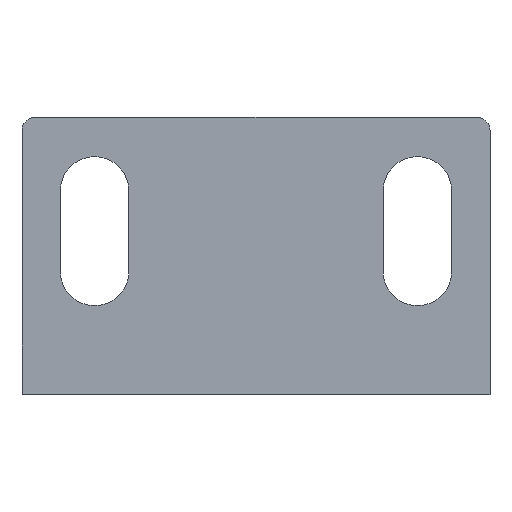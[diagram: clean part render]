
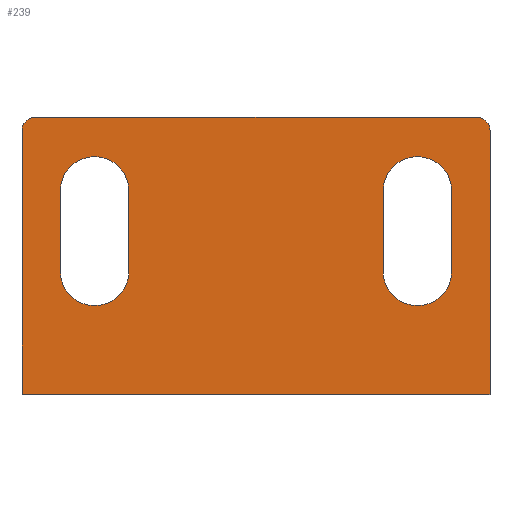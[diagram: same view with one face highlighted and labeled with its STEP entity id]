
A CAD part, top view. The second image highlights one B-rep face of the part: STEP entity #239.
In plain terms, the highlighted planar face has unit normal (0, 0, 1).
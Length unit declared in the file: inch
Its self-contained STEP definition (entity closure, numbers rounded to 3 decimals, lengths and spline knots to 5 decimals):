
#30 = ORIENTED_EDGE ( 'NONE', *, *, #1059, .T. ) ;
#55 = CARTESIAN_POINT ( 'NONE',  ( 0.606, 0.38, 0.135 ) ) ;
#61 = DIRECTION ( 'NONE',  ( 0., 0., -1. ) ) ;
#67 = EDGE_CURVE ( 'NONE', #1277, #466, #523, .T. ) ;
#72 = EDGE_CURVE ( 'NONE', #207, #726, #1121, .T. ) ;
#96 = ORIENTED_EDGE ( 'NONE', *, *, #723, .T. ) ;
#97 = CARTESIAN_POINT ( 'NONE',  ( -0.394, 0.38, 0.135 ) ) ;
#104 = CARTESIAN_POINT ( 'NONE',  ( 0.606, 0.63, 0.135 ) ) ;
#112 = VERTEX_POINT ( 'NONE', #173 ) ;
#125 = VECTOR ( 'NONE', #228, 39.37008 ) ;
#128 = DIRECTION ( 'NONE',  ( 0., 0., 1. ) ) ;
#141 = DIRECTION ( 'NONE',  ( -1., 0., 0. ) ) ;
#171 = VECTOR ( 'NONE', #618, 39.37008 ) ;
#173 = CARTESIAN_POINT ( 'NONE',  ( -0.606, 0.38, 0.135 ) ) ;
#177 = CARTESIAN_POINT ( 'NONE',  ( 0.725, 0.8175, 0.135 ) ) ;
#183 = VERTEX_POINT ( 'NONE', #311 ) ;
#185 = VERTEX_POINT ( 'NONE', #226 ) ;
#197 = FACE_OUTER_BOUND ( 'NONE', #842, .T. ) ;
#204 = ORIENTED_EDGE ( 'NONE', *, *, #943, .T. ) ;
#206 = CARTESIAN_POINT ( 'NONE',  ( 0.725, 0.125, 0.135 ) ) ;
#207 = VERTEX_POINT ( 'NONE', #596 ) ;
#208 = EDGE_CURVE ( 'NONE', #209, #1010, #643, .T. ) ;
#209 = VERTEX_POINT ( 'NONE', #55 ) ;
#225 = LINE ( 'NONE', #206, #333 ) ;
#226 = CARTESIAN_POINT ( 'NONE',  ( -0.725, 0.8175, 0.135 ) ) ;
#228 = DIRECTION ( 'NONE',  ( 0., 1., 0. ) ) ;
#232 = DIRECTION ( 'NONE',  ( -1., 0., 0. ) ) ;
#239 = ADVANCED_FACE ( 'NONE', ( #294, #552, #197 ), #533, .F. ) ;
#254 = EDGE_CURVE ( 'NONE', #1023, #185, #976, .T. ) ;
#258 = LINE ( 'NONE', #682, #125 ) ;
#264 = DIRECTION ( 'NONE',  ( 0., 0., -1. ) ) ;
#277 = DIRECTION ( 'NONE',  ( 1., 0., 0. ) ) ;
#282 = CARTESIAN_POINT ( 'NONE',  ( 0.725, 0., 0.135 ) ) ;
#293 = DIRECTION ( 'NONE',  ( 0., -1., 0. ) ) ;
#294 = FACE_BOUND ( 'NONE', #312, .T. ) ;
#303 = EDGE_CURVE ( 'NONE', #1010, #1237, #258, .T. ) ;
#311 = CARTESIAN_POINT ( 'NONE',  ( 0.685, 0.8575, 0.135 ) ) ;
#312 = EDGE_LOOP ( 'NONE', ( #1153, #1084, #392, #974 ) ) ;
#316 = VECTOR ( 'NONE', #277, 39.37008 ) ;
#333 = VECTOR ( 'NONE', #1264, 39.37008 ) ;
#365 = CARTESIAN_POINT ( 'NONE',  ( -0.725, 0.125, 0.135 ) ) ;
#373 = VECTOR ( 'NONE', #293, 39.37008 ) ;
#392 = ORIENTED_EDGE ( 'NONE', *, *, #303, .T. ) ;
#395 = LINE ( 'NONE', #1160, #1359 ) ;
#399 = CARTESIAN_POINT ( 'NONE',  ( -0.725, 0.125, 0.135 ) ) ;
#422 = LINE ( 'NONE', #399, #171 ) ;
#439 = VERTEX_POINT ( 'NONE', #177 ) ;
#442 = EDGE_CURVE ( 'NONE', #112, #1319, #395, .T. ) ;
#449 = CARTESIAN_POINT ( 'NONE',  ( 0.606, 0.38, 0.135 ) ) ;
#465 = CARTESIAN_POINT ( 'NONE',  ( 0.5, 0.63, 0.135 ) ) ;
#466 = VERTEX_POINT ( 'NONE', #282 ) ;
#505 = CARTESIAN_POINT ( 'NONE',  ( 0.394, 0.38, 0.135 ) ) ;
#507 = DIRECTION ( 'NONE',  ( 1., 0., 0. ) ) ;
#523 = LINE ( 'NONE', #1168, #316 ) ;
#533 = PLANE ( 'NONE',  #1027 ) ;
#535 = CIRCLE ( 'NONE', #764, 0.106 ) ;
#552 = FACE_BOUND ( 'NONE', #1340, .T. ) ;
#590 = CARTESIAN_POINT ( 'NONE',  ( -0.725, 0., 0.135 ) ) ;
#596 = CARTESIAN_POINT ( 'NONE',  ( -0.394, 0.63, 0.135 ) ) ;
#598 = ORIENTED_EDGE ( 'NONE', *, *, #254, .T. ) ;
#618 = DIRECTION ( 'NONE',  ( 0., -1., 0. ) ) ;
#621 = AXIS2_PLACEMENT_3D ( 'NONE', #1209, #1200, #141 ) ;
#643 = CIRCLE ( 'NONE', #1287, 0.106 ) ;
#669 = CARTESIAN_POINT ( 'NONE',  ( -0.606, 0.63, 0.135 ) ) ;
#671 = AXIS2_PLACEMENT_3D ( 'NONE', #763, #128, #1261 ) ;
#674 = CARTESIAN_POINT ( 'NONE',  ( -0.685, 0.8575, 0.135 ) ) ;
#682 = CARTESIAN_POINT ( 'NONE',  ( 0.394, 0.38, 0.135 ) ) ;
#686 = LINE ( 'NONE', #449, #373 ) ;
#720 = AXIS2_PLACEMENT_3D ( 'NONE', #825, #849, #1272 ) ;
#723 = EDGE_CURVE ( 'NONE', #726, #112, #1192, .T. ) ;
#726 = VERTEX_POINT ( 'NONE', #97 ) ;
#736 = CARTESIAN_POINT ( 'NONE',  ( -0.725, 0.8575, 0.135 ) ) ;
#763 = CARTESIAN_POINT ( 'NONE',  ( -0.685, 0.8175, 0.135 ) ) ;
#764 = AXIS2_PLACEMENT_3D ( 'NONE', #1085, #1311, #1353 ) ;
#773 = DIRECTION ( 'NONE',  ( 0., -1., 0. ) ) ;
#786 = ORIENTED_EDGE ( 'NONE', *, *, #1096, .T. ) ;
#821 = EDGE_CURVE ( 'NONE', #1023, #183, #859, .T. ) ;
#825 = CARTESIAN_POINT ( 'NONE',  ( -0.5, 0.38, 0.135 ) ) ;
#842 = EDGE_LOOP ( 'NONE', ( #1212, #204, #963, #598, #30, #1303 ) ) ;
#849 = DIRECTION ( 'NONE',  ( 0., 0., -1. ) ) ;
#859 = LINE ( 'NONE', #736, #949 ) ;
#871 = CARTESIAN_POINT ( 'NONE',  ( -0.394, 0.38, 0.135 ) ) ;
#914 = AXIS2_PLACEMENT_3D ( 'NONE', #465, #61, #1258 ) ;
#925 = CIRCLE ( 'NONE', #914, 0.106 ) ;
#927 = DIRECTION ( 'NONE',  ( 1., 0., 0. ) ) ;
#935 = CARTESIAN_POINT ( 'NONE',  ( 0.5, 0.38, 0.135 ) ) ;
#943 = EDGE_CURVE ( 'NONE', #439, #183, #1256, .T. ) ;
#949 = VECTOR ( 'NONE', #507, 39.37008 ) ;
#963 = ORIENTED_EDGE ( 'NONE', *, *, #821, .F. ) ;
#974 = ORIENTED_EDGE ( 'NONE', *, *, #1297, .T. ) ;
#976 = CIRCLE ( 'NONE', #671, 0.04 ) ;
#985 = DIRECTION ( 'NONE',  ( 0., 0., -1. ) ) ;
#1000 = ORIENTED_EDGE ( 'NONE', *, *, #72, .T. ) ;
#1010 = VERTEX_POINT ( 'NONE', #505 ) ;
#1023 = VERTEX_POINT ( 'NONE', #674 ) ;
#1027 = AXIS2_PLACEMENT_3D ( 'NONE', #365, #985, #232 ) ;
#1055 = VECTOR ( 'NONE', #773, 39.37008 ) ;
#1059 = EDGE_CURVE ( 'NONE', #185, #1277, #422, .T. ) ;
#1074 = DIRECTION ( 'NONE',  ( 0., 1., 0. ) ) ;
#1084 = ORIENTED_EDGE ( 'NONE', *, *, #208, .T. ) ;
#1085 = CARTESIAN_POINT ( 'NONE',  ( -0.5, 0.63, 0.135 ) ) ;
#1096 = EDGE_CURVE ( 'NONE', #1319, #207, #535, .T. ) ;
#1107 = EDGE_CURVE ( 'NONE', #439, #466, #225, .T. ) ;
#1121 = LINE ( 'NONE', #871, #1055 ) ;
#1131 = EDGE_CURVE ( 'NONE', #1141, #209, #686, .T. ) ;
#1141 = VERTEX_POINT ( 'NONE', #104 ) ;
#1153 = ORIENTED_EDGE ( 'NONE', *, *, #1131, .T. ) ;
#1160 = CARTESIAN_POINT ( 'NONE',  ( -0.606, 0.38, 0.135 ) ) ;
#1168 = CARTESIAN_POINT ( 'NONE',  ( -0.725, 0., 0.135 ) ) ;
#1192 = CIRCLE ( 'NONE', #720, 0.106 ) ;
#1193 = CARTESIAN_POINT ( 'NONE',  ( 0.394, 0.63, 0.135 ) ) ;
#1200 = DIRECTION ( 'NONE',  ( 0., 0., 1. ) ) ;
#1209 = CARTESIAN_POINT ( 'NONE',  ( 0.685, 0.8175, 0.135 ) ) ;
#1212 = ORIENTED_EDGE ( 'NONE', *, *, #1107, .F. ) ;
#1237 = VERTEX_POINT ( 'NONE', #1193 ) ;
#1256 = CIRCLE ( 'NONE', #621, 0.04 ) ;
#1258 = DIRECTION ( 'NONE',  ( 1., 0., 0. ) ) ;
#1261 = DIRECTION ( 'NONE',  ( -1., 0., 0. ) ) ;
#1264 = DIRECTION ( 'NONE',  ( 0., -1., 0. ) ) ;
#1272 = DIRECTION ( 'NONE',  ( -1., 0., 0. ) ) ;
#1277 = VERTEX_POINT ( 'NONE', #590 ) ;
#1287 = AXIS2_PLACEMENT_3D ( 'NONE', #935, #264, #927 ) ;
#1297 = EDGE_CURVE ( 'NONE', #1237, #1141, #925, .T. ) ;
#1303 = ORIENTED_EDGE ( 'NONE', *, *, #67, .T. ) ;
#1311 = DIRECTION ( 'NONE',  ( 0., 0., -1. ) ) ;
#1319 = VERTEX_POINT ( 'NONE', #669 ) ;
#1326 = ORIENTED_EDGE ( 'NONE', *, *, #442, .T. ) ;
#1340 = EDGE_LOOP ( 'NONE', ( #1000, #96, #1326, #786 ) ) ;
#1353 = DIRECTION ( 'NONE',  ( -1., 0., 0. ) ) ;
#1359 = VECTOR ( 'NONE', #1074, 39.37008 ) ;
